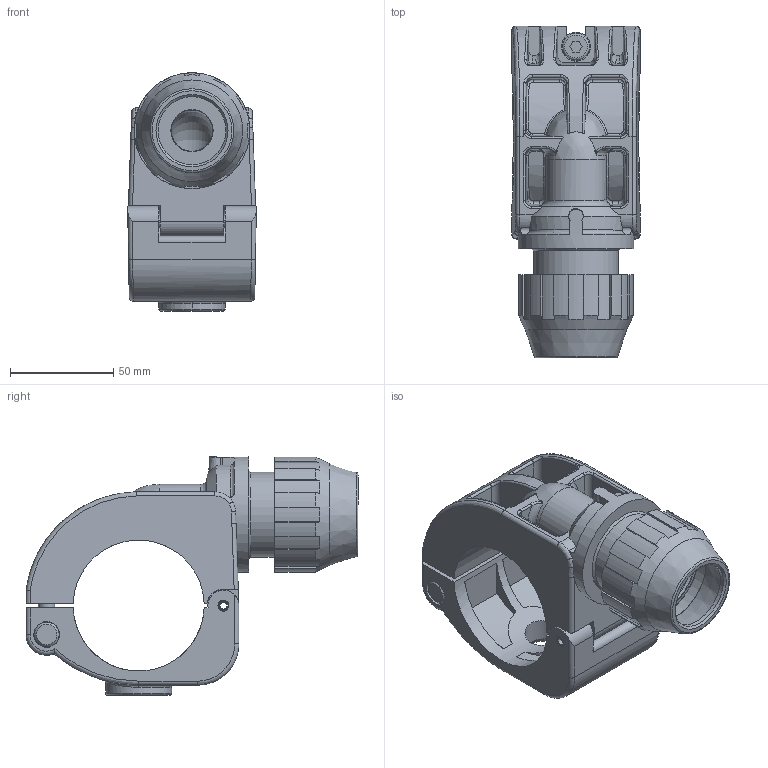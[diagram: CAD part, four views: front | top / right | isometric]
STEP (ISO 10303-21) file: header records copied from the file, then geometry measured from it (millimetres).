
FILE_DESCRIPTION( ( 'STEP AP214' ), '1' );
FILE_NAME( ' ', ' ', ( ' ' ), ( ' ' ), 'PSStep 11.0', 'VISI 17.0', ' ' );
FILE_SCHEMA( ( 'AUTOMOTIVE_DESIGN { 1 0 10303 214 1 1 1 1 }' ) );
Length unit declared in the file: millimetre
Products named in the file (11): 1; 2; 3; 4; 5; 6; 7; 8; 9; 10; 11
Bounding box: 62.29 x 160.64 x 115.35 mm (x, y, z)
Volume: 303664.6 mm3; surface area: 108147.3 mm2
Topology: 11 solids, 11 shells, 408 faces, 1034 edges, 657 vertices
Faces by surface type: cylinder 155, plane 142, bspline 84, torus 15, cone 12
Full cylindrical faces by diameter (mm): 5.3 x2, 5.8 x1, 8 x2, 9 x1, 12 x1, 12.5 x1, 13 x1, 14 x1, 20 x3, 20.5 x1, 29.568 x1, 32.9 x2, 36.149 x1, 38 x1, 41 x2, 44 x1, 46 x1, 50 x2, 56 x1
Entity records: 34444 total; most frequent: CARTESIAN_POINT 21934, ORIENTED_EDGE 1922, DIRECTION 1784, EDGE_CURVE 961, AXIS2_PLACEMENT_3D 701, VERTEX_POINT 636, EDGE_LOOP 493, FACE_OUTER_BOUND 444
